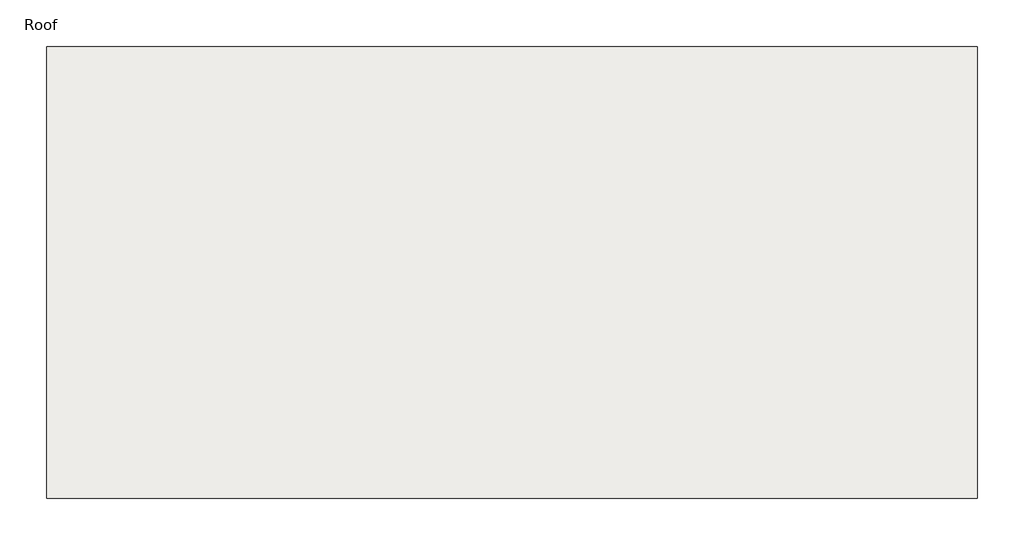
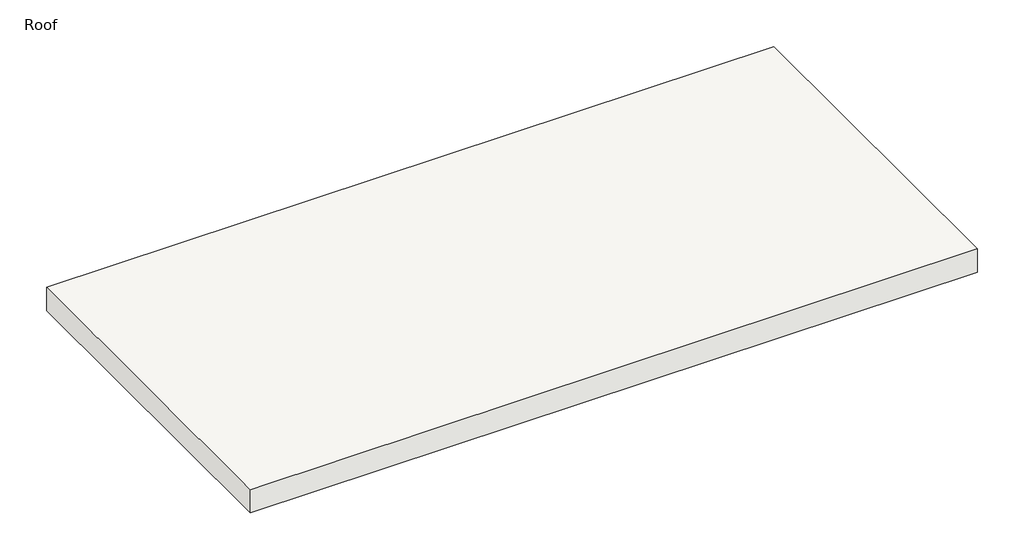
# One storey: 1 roof.
"""IFC4 building model written with IfcOpenShell, lengths in millimetres."""

import ifcopenshell
import ifcopenshell.guid

model = None  # the IFC model being written
_history = None  # IfcOwnerHistory: only IFC2X3 demands one
_inside = {}  # id of a spatial element -> (the spatial element, [elements in it])
_under = {}  # id of a project, library or spatial element -> (it, [spatial elements below it])
_declared = {}  # id of a project -> (the project, [libraries it declares])
_typed = {}  # id of a type object -> (the type object, [elements of that type])
_made_of = {}  # id of a material, layer set ... -> (it, [elements and type objects made of it])


def new_model(schema):
    """Start an empty IFC model of exactly this schema.

    Asked for "IFC4X3", IfcOpenShell would pick the latest addendum, in which some entities
    have other attributes; the version numbers below select the first issue.
    IFC2X3 requires an IfcOwnerHistory on every rooted entity: one is made here for all.
    """
    global model, _history
    if schema == "IFC4X3":
        model = ifcopenshell.file(schema_version=(4, 3, 0, 0))
    else:
        model = ifcopenshell.file(schema=schema)
    _inside.clear()
    _under.clear()
    _declared.clear()
    _typed.clear()
    _made_of.clear()
    _history = None
    if model.schema == "IFC2X3":
        org = make("IfcOrganization", Name="unknown")
        user = make(
            "IfcPersonAndOrganization",
            ThePerson=make("IfcPerson", FamilyName="unknown"),
            TheOrganization=org,
        )
        app = make(
            "IfcApplication",
            ApplicationDeveloper=org,
            Version="unknown",
            ApplicationFullName="unknown",
            ApplicationIdentifier="unknown",
        )
        _history = make(
            "IfcOwnerHistory",
            OwningUser=user,
            OwningApplication=app,
            ChangeAction="ADDED",
            CreationDate=0,
        )
    return model


def make(cls, **values):
    """One entity of the class cls with the attributes given. An attribute that is None is left unset."""
    return model.create_entity(
        cls, **{name: value for name, value in values.items() if value is not None}
    )


def rooted(cls, **values):
    """An entity with a GlobalId (a new one), such as an element, a storey or a relation."""
    return make(cls, GlobalId=ifcopenshell.guid.new(), OwnerHistory=_history, **values)


def si_unit(unit_type, name, prefix=None):
    """IfcSIUnit, for example si_unit("LENGTHUNIT", "METRE", prefix="MILLI")."""
    return make("IfcSIUnit", UnitType=unit_type, Prefix=prefix, Name=name)


def assignment(units):
    """IfcUnitAssignment: the units of a project."""
    return None if units is None else make("IfcUnitAssignment", Units=units)


def point(xyz):
    """IfcCartesianPoint."""
    return None if xyz is None else make("IfcCartesianPoint", Coordinates=xyz)


def direction(xyz):
    """IfcDirection."""
    return None if xyz is None else make("IfcDirection", DirectionRatios=xyz)


def frame(location, z_axis=None, x_axis=None):
    """IfcAxis2Placement3D, a coordinate frame: its origin and axes. An axis left out is left unset."""
    return make(
        "IfcAxis2Placement3D",
        Location=point(location),
        Axis=direction(z_axis),
        RefDirection=direction(x_axis),
    )


def origin():
    """The frame at (0, 0, 0) with its axes left unset."""
    return frame((0.0, 0.0, 0.0))


def place(relative_to, where):
    """IfcLocalPlacement: puts the frame where relative to a parent placement (None: the world)."""
    return make(
        "IfcLocalPlacement", PlacementRelTo=relative_to, RelativePlacement=where
    )


def context(
    kind, dimensions, precision=None, world=None, true_north=None, identifier=None
):
    """IfcGeometricRepresentationContext, for example the 3D "Model" context."""
    return make(
        "IfcGeometricRepresentationContext",
        ContextIdentifier=identifier,
        ContextType=kind,
        CoordinateSpaceDimension=dimensions,
        Precision=precision,
        WorldCoordinateSystem=world,
        TrueNorth=true_north,
    )


def project(units=None, contexts=None):
    """IfcProject with its units and contexts."""
    return rooted(
        "IfcProject",
        Name="project",
        RepresentationContexts=contexts,
        UnitsInContext=assignment(units),
    )


def spatial(cls, under=None, at=None, **own):
    """A site, building, storey or space (cls), placed at a placement, below another one or the project."""
    s = rooted(cls, ObjectPlacement=at, **own)
    if under is not None:
        _under.setdefault(under.id(), (under, []))[1].append(s)
    return s


def polyline(points):
    """IfcPolyline through the points."""
    return make("IfcPolyline", Points=[point(p) for p in points])


def outline(outer, holes=None, kind="AREA"):
    """IfcArbitraryClosedProfileDef: a profile drawn as a closed curve; with holes, ...WithVoids."""
    if holes is None:
        return make("IfcArbitraryClosedProfileDef", ProfileType=kind, OuterCurve=outer)
    return make(
        "IfcArbitraryProfileDefWithVoids",
        ProfileType=kind,
        OuterCurve=outer,
        InnerCurves=holes,
    )


def extrude(swept, where, along, depth):
    """IfcExtrudedAreaSolid: the profile swept, set in the frame where, extruded along a direction by depth."""
    return make(
        "IfcExtrudedAreaSolid",
        SweptArea=swept,
        Position=where,
        ExtrudedDirection=direction(along),
        Depth=depth,
    )


def shape(context_of_items, identifier, shape_type, items):
    """IfcShapeRepresentation: the items that make up one representation, for example the "Body"."""
    return make(
        "IfcShapeRepresentation",
        ContextOfItems=context_of_items,
        RepresentationIdentifier=identifier,
        RepresentationType=shape_type,
        Items=items,
    )


def made_of(thing, what):
    """Note that an element or type object is made of a material, layer set ...; save() writes the relation."""
    if what is not None:
        _made_of.setdefault(what.id(), (what, []))[1].append(thing)
    return thing


def element(
    cls,
    number,
    at=None,
    inside=None,
    cuts=None,
    type_object=None,
    material=None,
    context=None,
    identifier="Body",
    shape_type=None,
    held_by="IfcProductDefinitionShape",
    body=None,
    shapes=None,
    **own,
):
    """One element of the class cls, such as IfcWall. Its Tag is "e" and its number.

    at: its placement. inside: the storey or other place that contains it. cuts: it is an
    opening in that element (IfcRelVoidsElement). A single representation is given by context,
    identifier, shape_type and body (its items); several are given by shapes. held_by: the class
    of the entity that holds the representations. save() writes the other relations.
    """
    e = rooted(cls, Tag="e%d" % number, ObjectPlacement=at, **own)
    if body is not None:
        shapes = [shape(context, identifier, shape_type, body)]
    if shapes is not None:
        e.Representation = make(held_by, Representations=shapes)
    if inside is not None:
        _inside.setdefault(inside.id(), (inside, []))[1].append(e)
    if cuts is not None:
        rooted(
            "IfcRelVoidsElement", RelatingBuildingElement=cuts, RelatedOpeningElement=e
        )
    if type_object is not None:
        _typed.setdefault(type_object.id(), (type_object, []))[1].append(e)
    return made_of(e, material)


def aggregate(whole, parts):
    """IfcRelAggregates: a whole, such as a stair, and the parts it consists of."""
    return rooted("IfcRelAggregates", RelatingObject=whole, RelatedObjects=parts)


def save(model, path):
    """Write the relations noted so far, then the file.

    IfcRelAggregates (storeys below a building ...), IfcRelContainedInSpatialStructure (elements
    in a storey), IfcRelDefinesByType, IfcRelAssociatesMaterial and IfcRelDeclares: one each for
    every whole, place, type object, material and project.
    """
    for whole, parts in _under.values():
        aggregate(whole, parts)
    for where, things in _inside.values():
        rooted(
            "IfcRelContainedInSpatialStructure",
            RelatedElements=things,
            RelatingStructure=where,
        )
    for kind, things in _typed.values():
        rooted("IfcRelDefinesByType", RelatedObjects=things, RelatingType=kind)
    for what, things in _made_of.values():
        rooted("IfcRelAssociatesMaterial", RelatedObjects=things, RelatingMaterial=what)
    for by, libraries in _declared.values():
        rooted("IfcRelDeclares", RelatingContext=by, RelatedDefinitions=libraries)
    model.write(path)


model = new_model("IFC4")

# Units and contexts
model_context = context("Model", 3, world=origin())
ifc_project = project(units=[si_unit("LENGTHUNIT", "METRE", prefix="MILLI")], contexts=[model_context])

# Site, building, storey
site = spatial("IfcSite", under=ifc_project)
building = spatial("IfcBuilding", under=site)
storey = spatial("IfcBuildingStorey", under=building, Name="Roof", Elevation=12192.0)

# Roof
placement = place(None, origin())
element("IfcRoof", 1, ObjectType="Generic - 400mm", at=placement, inside=storey, context=model_context, shape_type="SweptSolid", body=[
    extrude(outline(polyline([(-14935.3416203, 2406.1188386), (-3093.3416203, 2406.1188386), (-3093.3416203, -3339.8811614), (-14935.3416203, -3339.8811614), (-14935.3416203, 2406.1188386)])), frame((0.0, 0.0, 12192.0), z_axis=(0.0, 0.0, 1.0), x_axis=(1.0, 0.0, 0.0)), (0.0, 0.0, 1.0), 400.0),
])

save(model, "model.ifc")
